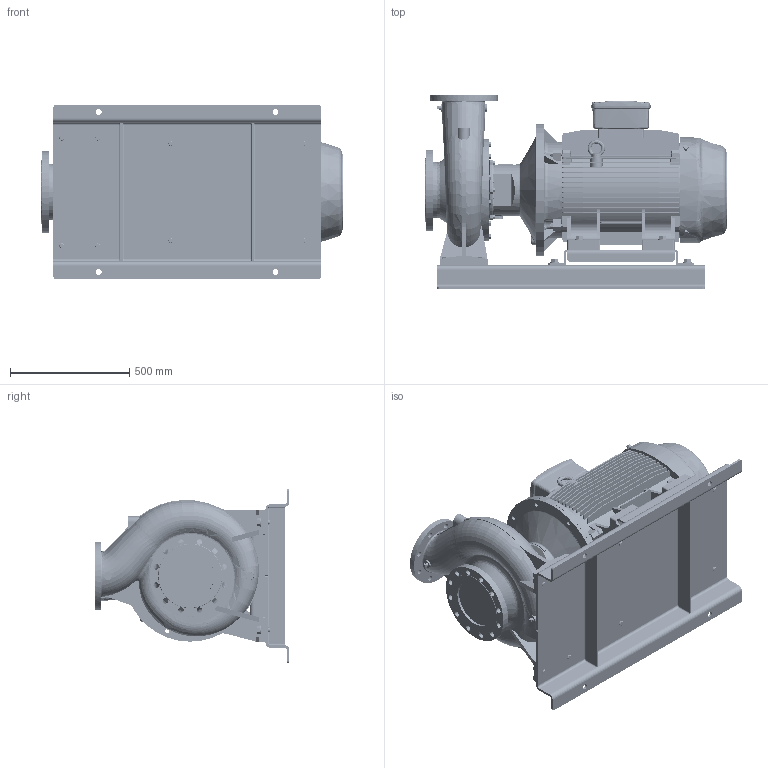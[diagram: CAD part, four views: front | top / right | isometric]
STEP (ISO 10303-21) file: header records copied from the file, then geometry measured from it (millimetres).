
FILE_DESCRIPTION (( 'STEP AP214' ), '1' );
FILE_NAME ('GSD4 150-315_55 & 75_(250SM)_W21_BP.STEP', '2026-05-08T00:06:35', ( '' ), ( '' ), 'SwSTEP 2.0', 'SolidWorks 2024', '' );
FILE_SCHEMA (( 'AUTOMOTIVE_DESIGN' ));
Length unit declared in the file: millimetre
Products named in the file (12): GSD4 150-315_55 & 75_(250SM)_W21_BP; Parametric bolt and washer_SFT-A399B; 250S_M4P IE3_W21T_B35; CGS11-5292; N9S4 GSDA-94G F1-1832984-00; Parametric bolt_SFT-A399B; Parametric Flat Washer_M20; Parametric bolt_SFT-A403B; Parametric bolt and washer_SFT-A403B; Parametric bolt and washer_SFT-A411B; Parametric bolt_SFT-A411B; 150-315-250S_M_ﾃﾞﾌｫﾙﾄ
Assembly tree (22 placements, depth 3):
  GSD4 150-315_55 & 75_(250SM)_W21_BP
    150-315-250S_M_ﾃﾞﾌｫﾙﾄ
    250S_M4P IE3_W21T_B35
    N9S4 GSDA-94G F1-1832984-00
    CGS11-5292
    Parametric bolt and washer_SFT-A403B  x4
      Parametric bolt_SFT-A403B
      Parametric Flat Washer_M20
    Parametric bolt and washer_SFT-A411B  x4
      Parametric bolt_SFT-A411B
      Parametric Flat Washer_M20
    Parametric bolt and washer_SFT-A399B  x4
      Parametric bolt_SFT-A399B
      Parametric Flat Washer_M20
Bounding box: 1260.5 x 815 x 730 mm (x, y, z)
Volume: 184271550.8 mm3; surface area: 8736671.7 mm2
Topology: 31 solids, 36 shells, 4452 faces, 11779 edges, 7529 vertices
Faces by surface type: plane 1734, cylinder 1560, cone 509, bspline 335, torus 296, sphere 18
Entity records: 193318 total; most frequent: CARTESIAN_POINT 102894, ORIENTED_EDGE 19940, DIRECTION 17713, EDGE_CURVE 9970, AXIS2_PLACEMENT_3D 6463, VERTEX_POINT 6362, LINE 4787, VECTOR 4787
